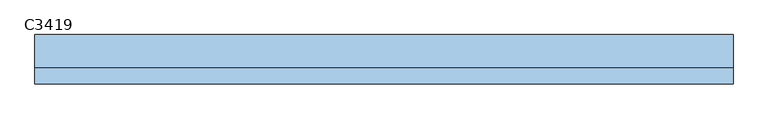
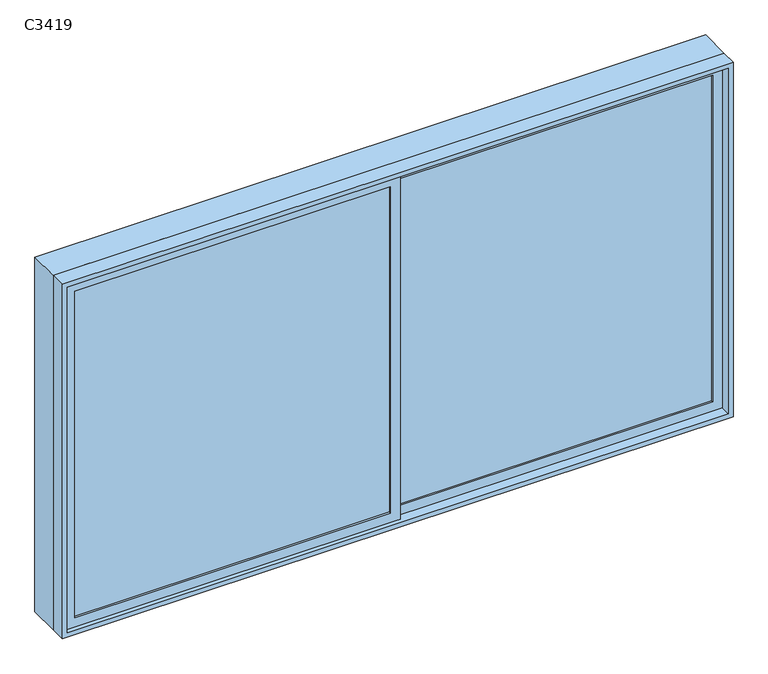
"""IFC4 building model written with IfcOpenShell, lengths in millimetres: window geometry, 推拉窗6 : C3419."""

from ifc_helpers import new_model, si_unit, frame, origin, place, context, project, spatial, polyline, outline, extrude, source, transform, mapped, element, save


def c3419_b8e60024(model_context):
    return source(origin(), model_context, "Body", "SweptSolid", [
        extrude(outline(polyline([(-1615.475, -23.1265625), (-1615.475, -13.1265625), (-15.475, -13.1265625), (-15.475, -23.1265625), (-1615.475, -23.1265625)])), frame((0.0, 0.0, 675.0), z_axis=(0.0, 0.0, 1.0), x_axis=(1.0, 0.0, 0.0)), (0.0, 0.0, 1.0), 1750.0),
        extrude(outline(polyline([(34.525, 6.8734375), (34.525, 16.8734375), (1634.525, 16.8734375), (1634.525, 6.8734375), (34.525, 6.8734375)])), frame((0.0, 0.0, 675.0), z_axis=(0.0, 0.0, 1.0), x_axis=(1.0, 0.0, 0.0)), (0.0, 0.0, 1.0), 1750.0),
        extrude(outline(polyline([(2500.0, -1690.475), (600.0, -1690.475), (600.0, 1709.525), (2500.0, 1709.525), (2500.0, -1690.475)]), holes=[polyline([(2445.0, 1659.525), (655.0, 1659.525), (655.0, -1640.475), (2445.0, -1640.475), (2445.0, 1659.525)])]), frame((0.0, 26.8734375, 0.0), z_axis=(0.0, 1.0, 0.0), x_axis=(0.0, 0.0, 1.0)), (0.0, 0.0, 1.0), 160.0),
        extrude(outline(polyline([(625.0, 34.525), (2475.0, 34.525), (2475.0, -1665.475), (625.0, -1665.475), (625.0, 34.525)]), holes=[polyline([(675.0, -15.475), (675.0, -1615.475), (2425.0, -1615.475), (2425.0, -15.475), (675.0, -15.475)])]), frame((0.0, -33.1265625, 0.0), z_axis=(0.0, 1.0, 0.0), x_axis=(0.0, 0.0, 1.0)), (0.0, 0.0, 1.0), 30.0),
        extrude(outline(polyline([(2475.0, -15.475), (625.0, -15.475), (625.0, 1684.525), (2475.0, 1684.525), (2475.0, -15.475)]), holes=[polyline([(2425.0, 34.525), (2425.0, 1634.525), (675.0, 1634.525), (675.0, 34.525), (2425.0, 34.525)])]), frame((0.0, -3.1265625, 0.0), z_axis=(0.0, 1.0, 0.0), x_axis=(0.0, 0.0, 1.0)), (0.0, 0.0, 1.0), 30.0),
        extrude(outline(polyline([(2500.0, -1690.475), (600.0, -1690.475), (600.0, 1709.525), (2500.0, 1709.525), (2500.0, -1690.475)]), holes=[polyline([(625.0, -1665.475), (2475.0, -1665.475), (2475.0, 1684.525), (625.0, 1684.525), (625.0, -1665.475)])]), frame((0.0, -53.1265625, 0.0), z_axis=(0.0, 1.0, 0.0), x_axis=(0.0, 0.0, 1.0)), (0.0, 0.0, 1.0), 80.0),
    ])


if __name__ == "__main__":
    model = new_model("IFC4")
    model_context = context("Model", 3, world=origin())
    ifc_project = project(units=[si_unit("LENGTHUNIT", "METRE", prefix="MILLI")], contexts=[model_context])
    site = spatial("IfcSite", under=ifc_project)
    building = spatial("IfcBuilding", under=site)
    placement = place(None, origin())
    c3419_shape = c3419_b8e60024(model_context)
    element("IfcWindow", 1, ObjectType="推拉窗6 : C3419", at=placement, inside=building, context=model_context, shape_type="MappedRepresentation", body=[
        mapped(c3419_shape, transform((0.0, 0.0, 0.0), x_axis=(1.0, 0.0, 0.0), y_axis=(0.0, 1.0, 0.0), z_axis=(0.0, 0.0, 1.0))),
    ])
    save(model, "model.ifc")
